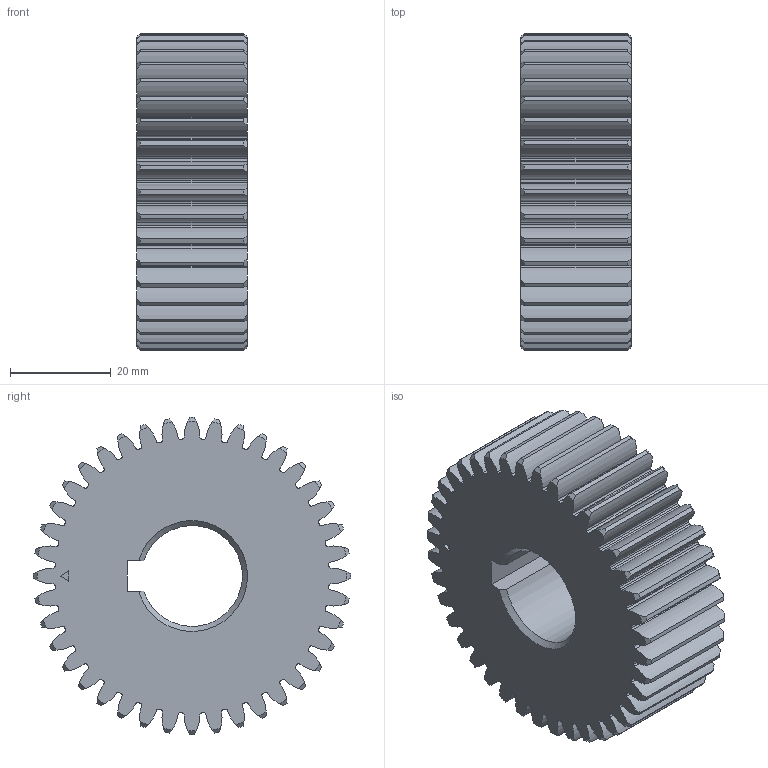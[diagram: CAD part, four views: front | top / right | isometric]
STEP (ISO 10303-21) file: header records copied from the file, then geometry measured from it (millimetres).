
FILE_DESCRIPTION(/* description */ (''),/* implementation_level */ '2;1');
FILE_NAME(/* name */ '',/* time_stamp */ '2026-03-27T11:21:32+09:00',/* author */ ('jhkim'),/* organization */ (''),/* preprocessor_version */ 'ST-DEVELOPER v20.1',/* originating_system */ 'Autodesk Inventor 2026',/* authorisation */ '');
FILE_SCHEMA (('AUTOMOTIVE_DESIGN { 1 0 10303 214 3 1 1 }'));
Length unit declared in the file: millimetre
Products named in the file (1): 구동 기어
Bounding box: 22 x 63 x 63 mm (x, y, z)
Volume: 53285 mm3; surface area: 15706.7 mm2
Topology: 1 solids, 1 shells, 336 faces, 996 edges, 664 vertices
Faces by surface type: cylinder 241, cone 82, plane 13
Entity records: 11767 total; most frequent: CARTESIAN_POINT 2485, DIRECTION 2070, ORIENTED_EDGE 1992, EDGE_CURVE 996, AXIS2_PLACEMENT_3D 901, VERTEX_POINT 664, CIRCLE 564, EDGE_LOOP 340
